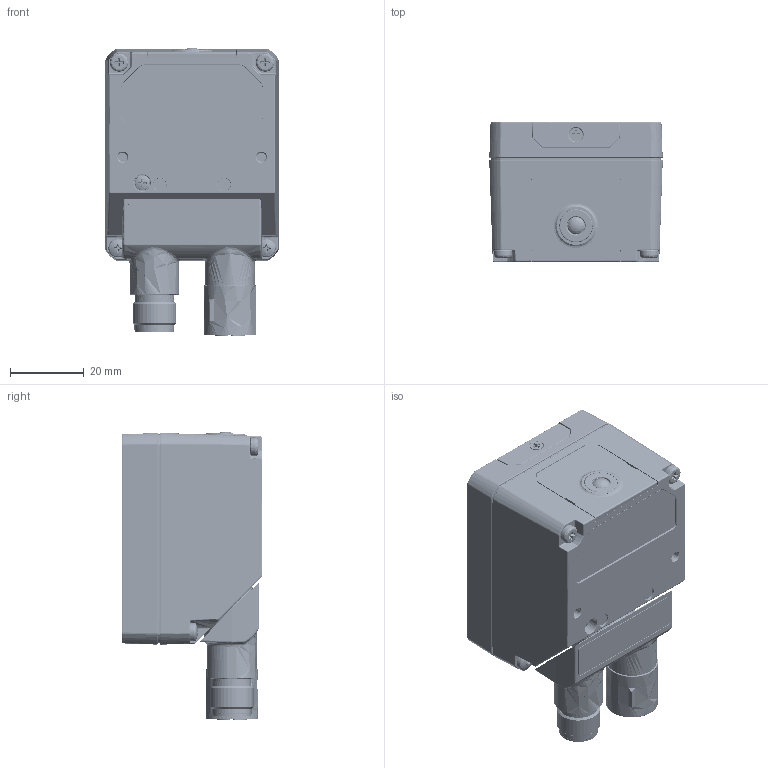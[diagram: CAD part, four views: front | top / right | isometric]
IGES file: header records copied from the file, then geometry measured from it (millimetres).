
Global section: file name: C:\Users\mgiacomazzi\Desktop\M220-DSD-891-STD-CONN-DIR.igs; native system: NX V10.0; preprocessor: SIEMENS PLM Software NX 10.0; date: 20180319.103912; units: millimetre
Bounding box: 47.09 x 38 x 78.44 mm (x, y, z)
Surface area: 45617 mm2 (no closed solid volume)
Topology: 0 solids, 0 shells, 3060 faces, 18163 edges, 17814 vertices
Faces by surface type: bspline 3060
